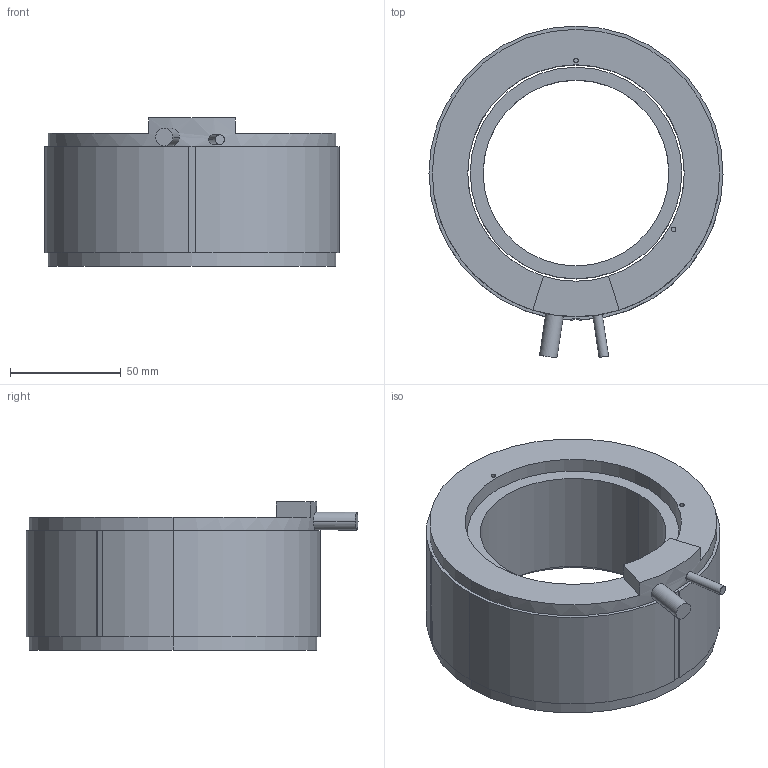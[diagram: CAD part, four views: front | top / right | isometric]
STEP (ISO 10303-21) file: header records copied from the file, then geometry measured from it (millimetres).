
FILE_DESCRIPTION (( 'STEP AP203' ), '1' );
FILE_NAME ('TM133-60 3D.STEP', '2024-01-12T02:55:12', ( '' ), ( '' ), 'SwSTEP 2.0', 'SolidWorks 2021', '' );
FILE_SCHEMA (( 'CONFIG_CONTROL_DESIGN' ));
Length unit declared in the file: millimetre
Products named in the file (1): TM133-60 3D
Bounding box: 133 x 150.15 x 67 mm (x, y, z)
Volume: 459651.1 mm3; surface area: 88483.6 mm2
Topology: 2 solids, 2 shells, 44 faces, 105 edges, 70 vertices
Faces by surface type: plane 22, cylinder 22
Entity records: 1492 total; most frequent: CARTESIAN_POINT 344, DIRECTION 235, ORIENTED_EDGE 210, EDGE_CURVE 105, AXIS2_PLACEMENT_3D 89, VERTEX_POINT 70, VECTOR 57, LINE 57
